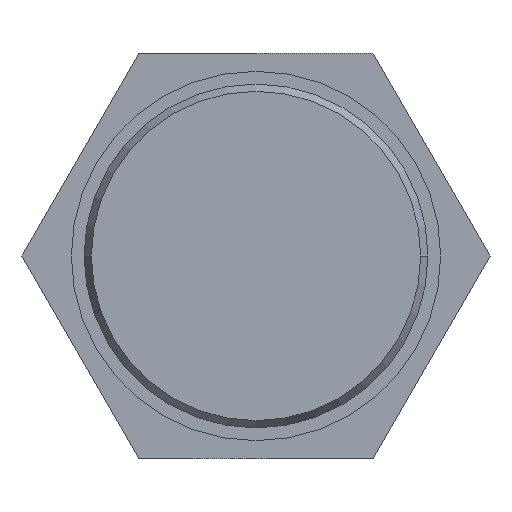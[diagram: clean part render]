
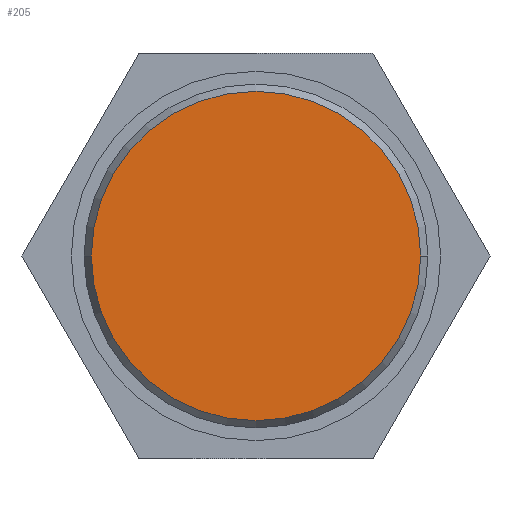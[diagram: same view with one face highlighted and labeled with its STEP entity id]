
A CAD part, left-side view. The second image highlights one B-rep face of the part: STEP entity #205.
In plain terms, the highlighted planar face has unit normal (-1, 0, 0).
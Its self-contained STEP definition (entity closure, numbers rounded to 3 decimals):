
#75 = DIRECTION ( 'NONE',  ( 0., -1., 0. ) ) ;
#99 = DIRECTION ( 'NONE',  ( 0., 1., 0. ) ) ;
#105 = ORIENTED_EDGE ( 'NONE', *, *, #275, .F. ) ;
#109 = DIRECTION ( 'NONE',  ( 1., 0., 0. ) ) ;
#138 = EDGE_CURVE ( 'NONE', #188, #295, #244, .T. ) ;
#153 = CARTESIAN_POINT ( 'NONE',  ( 0., 0., 0. ) ) ;
#157 = ORIENTED_EDGE ( 'NONE', *, *, #138, .F. ) ;
#175 = DIRECTION ( 'NONE',  ( -1., 0., 0. ) ) ;
#188 = VERTEX_POINT ( 'NONE', #595 ) ;
#205 = ADVANCED_FACE ( 'NONE', ( #860 ), #505, .T. ) ;
#244 = CIRCLE ( 'NONE', #736, 13. ) ;
#274 = CIRCLE ( 'NONE', #682, 13. ) ;
#275 = EDGE_CURVE ( 'NONE', #295, #188, #274, .T. ) ;
#295 = VERTEX_POINT ( 'NONE', #534 ) ;
#306 = DIRECTION ( 'NONE',  ( 0., 1., 0. ) ) ;
#443 = CARTESIAN_POINT ( 'NONE',  ( 0., 0., 0. ) ) ;
#474 = EDGE_LOOP ( 'NONE', ( #157, #105 ) ) ;
#485 = CARTESIAN_POINT ( 'NONE',  ( 0., 0., 0. ) ) ;
#505 = PLANE ( 'NONE',  #871 ) ;
#534 = CARTESIAN_POINT ( 'NONE',  ( 0., -13., 0. ) ) ;
#595 = CARTESIAN_POINT ( 'NONE',  ( 0., 13., 0. ) ) ;
#680 = DIRECTION ( 'NONE',  ( 1., 0., 0. ) ) ;
#682 = AXIS2_PLACEMENT_3D ( 'NONE', #153, #109, #99 ) ;
#736 = AXIS2_PLACEMENT_3D ( 'NONE', #443, #680, #306 ) ;
#860 = FACE_OUTER_BOUND ( 'NONE', #474, .T. ) ;
#871 = AXIS2_PLACEMENT_3D ( 'NONE', #485, #175, #75 ) ;
